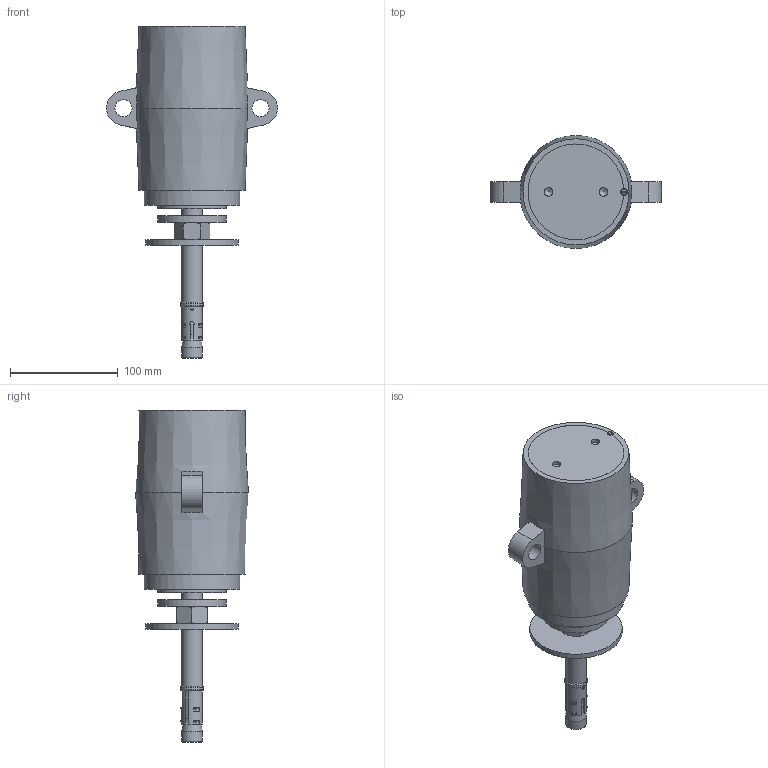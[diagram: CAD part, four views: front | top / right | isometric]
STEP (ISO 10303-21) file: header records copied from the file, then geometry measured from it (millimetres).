
FILE_DESCRIPTION(/* description */ (''),/* implementation_level */ '2;1');
FILE_NAME(/* name */ '\\Mleuckthor2\cad-proe_solids\WEBSITE FILES 05.22.13\STEP\SFFS\SFFS-6_2INCH AIR GAP.stp',/* time_stamp */ '2016-02-25T14:11:39-05:00',/* author */ ('rramoutar'),/* organization */ ('Mason Industries Inc.'),/* preprocessor_version */ 'ST-DEVELOPER v15.6',/* originating_system */ 'Autodesk Inventor 2015',/* authorisation */ '');
FILE_SCHEMA (('CONFIG_CONTROL_DESIGN'));
Length unit declared in the file: inch
Products named in the file (1): SFFS-6 PER A-27937
Bounding box: 158.75 x 104.78 x 307.98 mm (x, y, z)
Volume: 732708.1 mm3; surface area: 240463.3 mm2
Topology: 12 solids, 12 shells, 213 faces, 490 edges, 310 vertices
Faces by surface type: plane 87, cone 45, cylinder 45, bspline 25, torus 10, sphere 1
Full cylindrical faces by diameter (mm): 6.35 x1, 7.998 x2, 15.24 x1, 15.875 x3, 16.307 x2, 17.462 x1, 19.05 x2, 20.637 x4, 25.4 x1, 31.75 x2, 63.5 x4, 85.725 x1, 88.9 x2
Entity records: 6794 total; most frequent: CARTESIAN_POINT 2175, ORIENTED_EDGE 870, DIRECTION 850, EDGE_CURVE 435, AXIS2_PLACEMENT_3D 360, VERTEX_POINT 299, EDGE_LOOP 286, STYLED_ITEM 225
